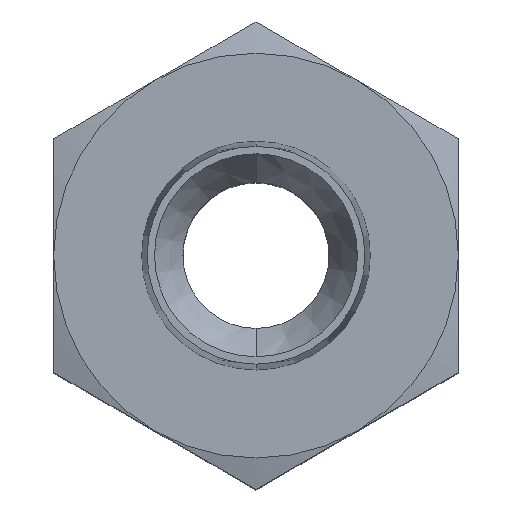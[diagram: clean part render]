
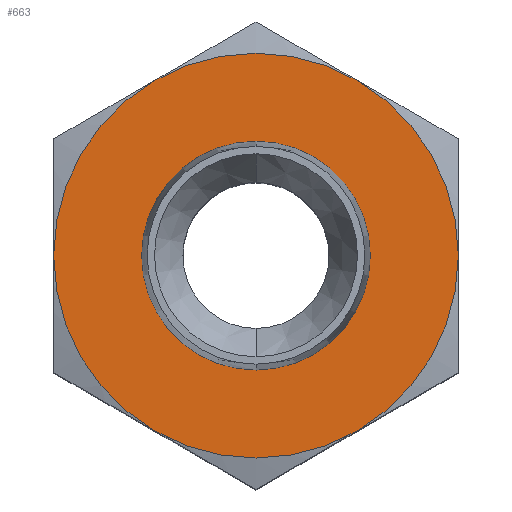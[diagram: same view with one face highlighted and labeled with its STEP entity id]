
A CAD part, top view. The second image highlights one B-rep face of the part: STEP entity #663.
In plain terms, the highlighted planar face has unit normal (0, 0, 1).
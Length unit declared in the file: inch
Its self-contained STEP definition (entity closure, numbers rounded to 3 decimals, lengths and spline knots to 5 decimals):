
#127=CARTESIAN_POINT('',(0.,0.,1.1275));
#128=DIRECTION('',(0.,0.,-1.));
#129=DIRECTION('',(-0.5,0.866,0.));
#130=AXIS2_PLACEMENT_3D('',#127,#128,#129);
#132=CARTESIAN_POINT('',(0.,0.,1.1275));
#133=DIRECTION('',(0.,0.,-1.));
#134=DIRECTION('',(0.,1.,0.));
#135=AXIS2_PLACEMENT_3D('',#132,#133,#134);
#137=CARTESIAN_POINT('',(0.,0.,1.1275));
#138=DIRECTION('',(0.,0.,-1.));
#139=DIRECTION('',(0.5,0.866,0.));
#140=AXIS2_PLACEMENT_3D('',#137,#138,#139);
#142=CARTESIAN_POINT('',(0.,0.,1.1275));
#143=DIRECTION('',(0.,0.,-1.));
#144=DIRECTION('',(1.,0.,0.));
#145=AXIS2_PLACEMENT_3D('',#142,#143,#144);
#147=CARTESIAN_POINT('',(0.,0.,1.1275));
#148=DIRECTION('',(0.,0.,-1.));
#149=DIRECTION('',(0.5,-0.866,0.));
#150=AXIS2_PLACEMENT_3D('',#147,#148,#149);
#152=CARTESIAN_POINT('',(0.,0.,1.1275));
#153=DIRECTION('',(0.,0.,-1.));
#154=DIRECTION('',(0.,-1.,0.));
#155=AXIS2_PLACEMENT_3D('',#152,#153,#154);
#157=CARTESIAN_POINT('',(0.,0.,1.1275));
#158=DIRECTION('',(0.,0.,-1.));
#159=DIRECTION('',(-0.5,-0.866,0.));
#160=AXIS2_PLACEMENT_3D('',#157,#158,#159);
#162=CARTESIAN_POINT('',(0.,0.,1.1275));
#163=DIRECTION('',(0.,0.,-1.));
#164=DIRECTION('',(-1.,0.,0.));
#165=AXIS2_PLACEMENT_3D('',#162,#163,#164);
#167=CARTESIAN_POINT('',(0.,0.,1.1275));
#168=DIRECTION('',(0.,0.,1.));
#169=DIRECTION('',(0.,1.,0.));
#170=AXIS2_PLACEMENT_3D('',#167,#168,#169);
#172=CARTESIAN_POINT('',(0.,0.,1.1275));
#173=DIRECTION('',(0.,0.,1.));
#174=DIRECTION('',(0.,-1.,0.));
#175=AXIS2_PLACEMENT_3D('',#172,#173,#174);
#461=CARTESIAN_POINT('',(0.,0.3179,1.1275));
#462=VERTEX_POINT('',#461);
#463=CARTESIAN_POINT('',(0.,-0.3179,1.1275));
#464=VERTEX_POINT('',#463);
#465=CARTESIAN_POINT('',(0.,0.5625,1.1275));
#466=CARTESIAN_POINT('',(0.28125,0.48714,1.1275));
#467=VERTEX_POINT('',#465);
#468=VERTEX_POINT('',#466);
#469=CARTESIAN_POINT('',(-0.28125,0.48714,1.1275));
#470=VERTEX_POINT('',#469);
#471=CARTESIAN_POINT('',(0.5625,0.,1.1275));
#472=VERTEX_POINT('',#471);
#473=CARTESIAN_POINT('',(0.28125,-0.48714,1.1275));
#474=VERTEX_POINT('',#473);
#475=CARTESIAN_POINT('',(0.,-0.5625,1.1275));
#476=CARTESIAN_POINT('',(-0.28125,-0.48714,1.1275));
#477=VERTEX_POINT('',#475);
#478=VERTEX_POINT('',#476);
#479=CARTESIAN_POINT('',(-0.5625,0.,1.1275));
#480=VERTEX_POINT('',#479);
#638=CARTESIAN_POINT('',(0.,0.,1.1275));
#639=DIRECTION('',(0.,0.,1.));
#640=DIRECTION('',(0.,1.,0.));
#641=AXIS2_PLACEMENT_3D('',#638,#639,#640);
#642=PLANE('',#641);
#644=ORIENTED_EDGE('',*,*,#643,.T.);
#646=ORIENTED_EDGE('',*,*,#645,.T.);
#647=ORIENTED_EDGE('',*,*,#569,.T.);
#648=ORIENTED_EDGE('',*,*,#600,.T.);
#649=ORIENTED_EDGE('',*,*,#630,.T.);
#650=ORIENTED_EDGE('',*,*,#628,.T.);
#652=ORIENTED_EDGE('',*,*,#651,.T.);
#654=ORIENTED_EDGE('',*,*,#653,.T.);
#655=EDGE_LOOP('',(#644,#646,#647,#648,#649,#650,#652,#654));
#656=FACE_OUTER_BOUND('',#655,.F.);
#658=ORIENTED_EDGE('',*,*,#657,.T.);
#660=ORIENTED_EDGE('',*,*,#659,.T.);
#661=EDGE_LOOP('',(#658,#660));
#662=FACE_BOUND('',#661,.F.);
#663=ADVANCED_FACE('',(#656,#662),#642,.T.);
#131=CIRCLE('',#130,0.5625);
#136=CIRCLE('',#135,0.5625);
#141=CIRCLE('',#140,0.5625);
#146=CIRCLE('',#145,0.5625);
#151=CIRCLE('',#150,0.5625);
#156=CIRCLE('',#155,0.5625);
#161=CIRCLE('',#160,0.5625);
#166=CIRCLE('',#165,0.5625);
#171=CIRCLE('',#170,0.3179);
#176=CIRCLE('',#175,0.3179);
#569=EDGE_CURVE('',#468,#472,#141,.T.);
#600=EDGE_CURVE('',#472,#474,#146,.T.);
#628=EDGE_CURVE('',#477,#478,#156,.T.);
#630=EDGE_CURVE('',#474,#477,#151,.T.);
#643=EDGE_CURVE('',#470,#467,#131,.T.);
#645=EDGE_CURVE('',#467,#468,#136,.T.);
#651=EDGE_CURVE('',#478,#480,#161,.T.);
#653=EDGE_CURVE('',#480,#470,#166,.T.);
#657=EDGE_CURVE('',#462,#464,#171,.T.);
#659=EDGE_CURVE('',#464,#462,#176,.T.);
